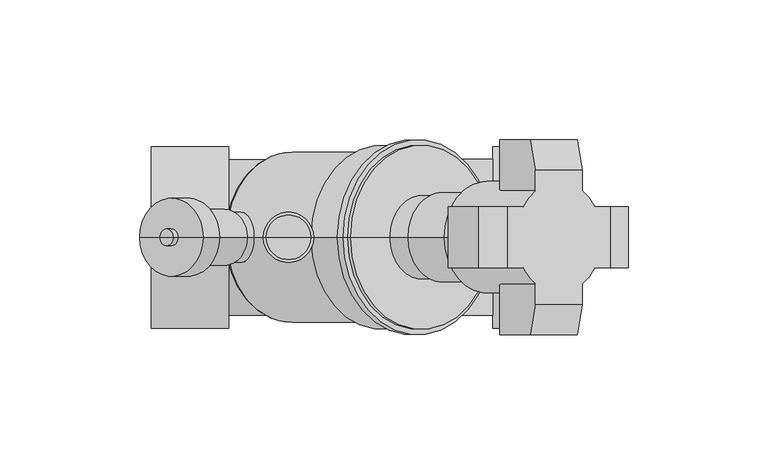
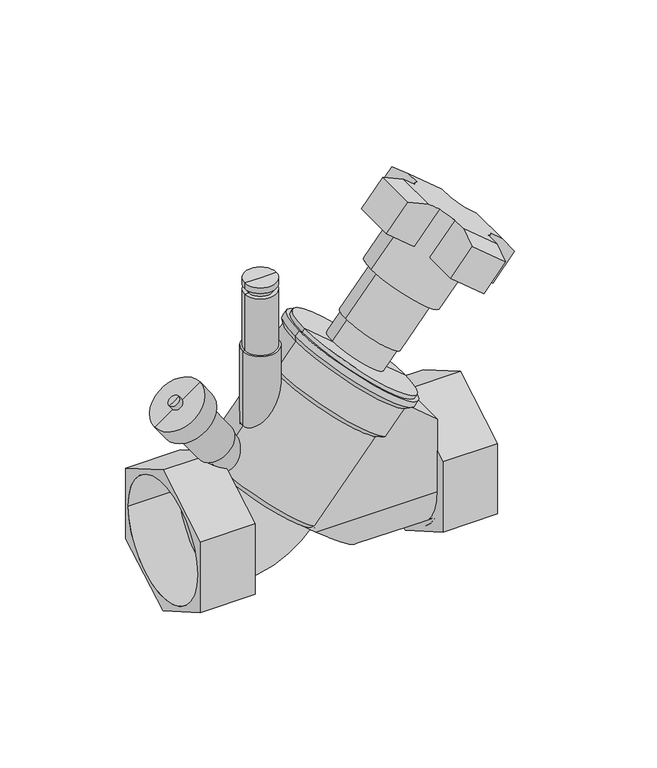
"""IFC4 building model written with IfcOpenShell, lengths in millimetres: valve geometry, 400_56_KOMF_VTR DN20-50 : DN 50, meet & vul/aftap."""

from ifc_helpers import new_model, si_unit, point, frame, origin, origin_2d, place, context, project, spatial, polyline, circle_curve, ellipse_curve, trimmed, segment, composite_curve, outline, extrude, source, transform, mapped, element, save
from ifc_brep_helpers import plane_surface, cylinder_surface, revolved_surface, advanced_brep


def valve_d54b975c(model_context):
    return source(origin(), model_context, "Body", "SolidModel", [
        advanced_brep(
        [(-47.3, -32.5, 18.7638837), (-47.3, -32.5, -18.7638837), (-47.3, 0.0, -37.5277675), (-47.3, 32.5, -18.7638837), (-47.3, 32.5, 18.7638837), (-47.3, 0.0, 37.5277675), (-75.0, -32.5, 18.7638837), (-75.0, 0.0, 37.5277675), (-75.0, 32.5, 18.7638837), (-75.0, 32.5, -18.7638837), (-75.0, 0.0, -37.5277675), (-75.0, -32.5, -18.7638837), (-75.0, -30.15, 0.0), (-75.0, 30.15, 0.0), (-49.3, -30.15, 0.0), (-49.3, 30.15, 0.0)],
        [
            (0, 1),
            (1, 2),
            (2, 3),
            (3, 4),
            (4, 5),
            (5, 0),
            (6, 7),
            (7, 8),
            (8, 9),
            (9, 10),
            (10, 11),
            (11, 6),
            (12, 13, circle_curve(frame((-75.0, 0.0, 0.0), z_axis=(1.0, 0.0, 0.0), x_axis=(0.0, 1.0, 0.0)), 30.15)),
            (13, 12, circle_curve(frame((-75.0, 0.0, 0.0), z_axis=(1.0, 0.0, 0.0), x_axis=(0.0, 1.0, 0.0)), 30.15)),
            (0, 6),
            (11, 1),
            (10, 2),
            (9, 3),
            (8, 4),
            (7, 5),
            (14, 15, circle_curve(frame((-49.3, 0.0, 0.0), z_axis=(-1.0, 0.0, 0.0), x_axis=(0.0, 1.0, 0.0)), 30.15)),
            (15, 14, circle_curve(frame((-49.3, 0.0, 0.0), z_axis=(-1.0, 0.0, 0.0), x_axis=(0.0, 1.0, 0.0)), 30.15)),
            (15, 13),
            (12, 14),
        ],
        [
            plane_surface(frame((-47.3, -32.5, 18.7638837), z_axis=(1.0, 0.0, 0.0), x_axis=(0.0, 0.0, -1.0))),
            plane_surface(frame((-75.0, -32.5, 18.7638837), z_axis=(-1.0, 0.0, 0.0), x_axis=(0.0, 0.0, 1.0))),
            plane_surface(frame((-47.3, -32.5, 18.7638837), z_axis=(0.0, -1.0, 0.0), x_axis=(-1.0, 0.0, 0.0))),
            plane_surface(frame((-47.3, -32.5, -18.7638837), z_axis=(0.0, -0.5000000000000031, -0.8660254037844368), x_axis=(-1.0, 0.0, 0.0))),
            plane_surface(frame((-47.3, 0.0, -37.5277675), z_axis=(0.0, 0.5000000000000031, -0.8660254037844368), x_axis=(-1.0, 0.0, 0.0))),
            plane_surface(frame((-47.3, 32.5, -18.7638837), z_axis=(0.0, 1.0, 0.0), x_axis=(-1.0, 0.0, 0.0))),
            plane_surface(frame((-47.3, 32.5, 18.7638837), z_axis=(0.0, 0.5000000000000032, 0.8660254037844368), x_axis=(-1.0, 0.0, 0.0))),
            plane_surface(frame((-47.3, 0.0, 37.5277675), z_axis=(0.0, -0.5000000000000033, 0.8660254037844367), x_axis=(-1.0, 0.0, 0.0))),
            plane_surface(frame((-49.3, 30.15, 0.0), z_axis=(-1.0, 0.0, 0.0), x_axis=(0.0, 0.0, 1.0))),
            revolved_surface(polyline([(-49.3, 30.15, 0.0), (-75.0, 30.15, 0.0)]), (-75.0, 0.0, 0.0), (1.0, 0.0, 0.0)),
        ],
        [
            (0, [[1, 2, 3, 4, 5, 6]]),
            (1, [[7, 8, 9, 10, 11, 12], [13, 14]]),
            (2, [[-1, 15, -12, 16]]),
            (3, [[-2, -16, -11, 17]]),
            (4, [[-3, -17, -10, 18]]),
            (5, [[-4, -18, -9, 19]]),
            (6, [[-5, -19, -8, 20]]),
            (7, [[-6, -20, -7, -15]]),
            (8, [[21, 22]]),
            (9, [[-22, 23, -13, 24]]),
            (9, [[-21, -24, -14, -23]]),
        ],
    ),
        advanced_brep(
        [(75.0, -32.5, 18.7638837), (75.0, -32.5, -18.7638837), (75.0, 0.0, -37.5277675), (75.0, 32.5, -18.7638837), (75.0, 32.5, 18.7638837), (75.0, 0.0, 37.5277675), (75.0, 30.15, 0.0), (75.0, -30.15, 0.0), (47.3, -32.5, 18.7638837), (47.3, 0.0, 37.5277675), (47.3, 32.5, 18.7638837), (47.3, 32.5, -18.7638837), (47.3, 0.0, -37.5277675), (47.3, -32.5, -18.7638837), (49.3, -30.15, 0.0), (49.3, 30.15, 0.0)],
        [
            (0, 1),
            (1, 2),
            (2, 3),
            (3, 4),
            (4, 5),
            (5, 0),
            (6, 7, circle_curve(frame((75.0, 0.0, 0.0), z_axis=(-1.0, 0.0, 0.0), x_axis=(0.0, 1.0, 0.0)), 30.15)),
            (7, 6, circle_curve(frame((75.0, 0.0, 0.0), z_axis=(-1.0, 0.0, 0.0), x_axis=(0.0, 1.0, 0.0)), 30.15)),
            (8, 9),
            (9, 10),
            (10, 11),
            (11, 12),
            (12, 13),
            (13, 8),
            (0, 8),
            (13, 1),
            (12, 2),
            (11, 3),
            (10, 4),
            (9, 5),
            (14, 15, circle_curve(frame((49.3, 0.0, 0.0), z_axis=(1.0, 0.0, 0.0), x_axis=(0.0, 1.0, 0.0)), 30.15)),
            (15, 14, circle_curve(frame((49.3, 0.0, 0.0), z_axis=(1.0, 0.0, 0.0), x_axis=(0.0, 1.0, 0.0)), 30.15)),
            (14, 7),
            (6, 15),
        ],
        [
            plane_surface(frame((75.0, -32.5, 18.7638837), z_axis=(1.0, 0.0, 0.0), x_axis=(0.0, 0.0, -1.0))),
            plane_surface(frame((47.3, -32.5, 18.7638837), z_axis=(-1.0, 0.0, 0.0), x_axis=(0.0, 0.0, 1.0))),
            plane_surface(frame((75.0, -32.5, 18.7638837), z_axis=(0.0, -1.0, 0.0), x_axis=(-1.0, 0.0, 0.0))),
            plane_surface(frame((75.0, -32.5, -18.7638837), z_axis=(0.0, -0.5000000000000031, -0.8660254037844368), x_axis=(-1.0, 0.0, 0.0))),
            plane_surface(frame((75.0, 0.0, -37.5277675), z_axis=(0.0, 0.5000000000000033, -0.8660254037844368), x_axis=(-1.0, 0.0, 0.0))),
            plane_surface(frame((75.0, 32.5, -18.7638837), z_axis=(0.0, 1.0, 0.0), x_axis=(-1.0, 0.0, 0.0))),
            plane_surface(frame((75.0, 32.5, 18.7638837), z_axis=(0.0, 0.5000000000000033, 0.8660254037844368), x_axis=(-1.0, 0.0, 0.0))),
            plane_surface(frame((75.0, 0.0, 37.5277675), z_axis=(0.0, -0.5000000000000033, 0.8660254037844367), x_axis=(-1.0, 0.0, 0.0))),
            plane_surface(frame((49.3, 30.15, 0.0), z_axis=(1.0, 0.0, 0.0), x_axis=(0.0, 0.0, -1.0))),
            revolved_surface(polyline([(75.0, 30.15, 0.0), (49.3, 30.15, 0.0)]), (49.3, 0.0, 0.0), (1.0, 0.0, 0.0)),
        ],
        [
            (0, [[1, 2, 3, 4, 5, 6], [7, 8]]),
            (1, [[9, 10, 11, 12, 13, 14]]),
            (2, [[-1, 15, -14, 16]]),
            (3, [[-2, -16, -13, 17]]),
            (4, [[-3, -17, -12, 18]]),
            (5, [[-4, -18, -11, 19]]),
            (6, [[-5, -19, -10, 20]]),
            (7, [[-6, -20, -9, -15]]),
            (8, [[21, 22]]),
            (9, [[-21, 23, -7, 24]]),
            (9, [[-22, -24, -8, -23]]),
        ],
    ),
        extrude(outline(polyline([(28.0, 49.3), (52.5786104, 35.4204683), (65.1571468, 20.4299523), (0.0, 11.3951534), (0.0, 49.3), (28.0, 49.3)])), frame((0.0, -2.0, 0.0), z_axis=(0.0, 1.0, 0.0), x_axis=(0.0, 0.0, 1.0)), (0.0, 0.0, 1.0), 4.0),
        extrude(outline(composite_curve([segment(trimmed(circle_curve(origin_2d(), 30.15), [point((0.0, -30.15))], [point((0.0, 30.15))], False, "CARTESIAN"), True, "CONTINUOUS"), segment(trimmed(circle_curve(origin_2d(), 30.15), [point((0.0, 30.15))], [point((0.0, -30.15))], False, "CARTESIAN"), True, "CONTINUOUS")], self_intersect=False)), frame((47.3, 0.0, 0.0), z_axis=(1.0, 0.0, 0.0), x_axis=(0.0, 1.0, 0.0)), (0.0, 0.0, 1.0), 2.0),
        advanced_brep(
        [(21.7155275, 0.0, 66.6892357), (46.9949941, 0.0, 45.4772446), (-3.5639391, 0.0, 87.9012268), (-47.6830222, 0.0, 28.3213938), (-4.018489, 0.0, -8.3174999), (-25.8507556, 0.0, 10.0019469), (-17.0757306, 0.0, 67.9091912), (29.6529804, 0.0, 28.699147), (-1.2008249, 0.0, -8.0709863), (-47.9295359, 0.0, 31.1390579), (-17.7052665, 0.0, 71.0482491), (32.8536667, 0.0, 28.6242669), (-8.0634524, 0.0, 82.5389157), (42.4954809, 0.0, 40.1149335), (-8.309966, 0.0, 85.3565798), (45.313145, 0.0, 40.3614472), (-6.3816032, 0.0, 87.6547132), (47.2415078, 0.0, 42.6595805), (-4.8495143, 0.0, 86.369138), (45.7094189, 0.0, 43.9451557)],
        [
            (0, 1),
            (1, 2, circle_curve(frame((21.7155275, 0.0, 66.6892357), z_axis=(0.6427876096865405, 0.0, 0.7660444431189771), x_axis=(0.7660444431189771, 0.0, -0.6427876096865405)), 33.0)),
            (2, 0),
            (2, 1, circle_curve(frame((21.7155275, 0.0, 66.6892357), z_axis=(0.6427876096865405, 0.0, 0.7660444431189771), x_axis=(0.7660444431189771, 0.0, -0.6427876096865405)), 33.0)),
            (3, 4, circle_curve(frame((-25.8507556, 0.0, 10.0019469), z_axis=(-0.6427876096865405, 0.0, -0.7660444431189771), x_axis=(0.7660444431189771, 0.0, -0.6427876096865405)), 28.5)),
            (4, 5),
            (5, 3),
            (4, 3, circle_curve(frame((-25.8507556, 0.0, 10.0019469), z_axis=(-0.6427876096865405, 0.0, -0.7660444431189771), x_axis=(0.7660444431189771, 0.0, -0.6427876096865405)), 28.5)),
            (6, 7, circle_curve(frame((6.2886249, 0.0, 48.3041691), z_axis=(-0.6427876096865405, 0.0, -0.7660444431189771), x_axis=(0.7660444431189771, 0.0, -0.6427876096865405)), 30.5)),
            (7, 8),
            (8, 9, circle_curve(frame((-24.5651804, 0.0, 11.5340358), z_axis=(0.6427876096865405, 0.0, 0.7660444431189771), x_axis=(0.7660444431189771, 0.0, -0.6427876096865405)), 30.5)),
            (9, 6),
            (7, 6, circle_curve(frame((6.2886249, 0.0, 48.3041691), z_axis=(-0.6427876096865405, 0.0, -0.7660444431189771), x_axis=(0.7660444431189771, 0.0, -0.6427876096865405)), 30.5)),
            (9, 8, circle_curve(frame((-24.5651804, 0.0, 11.5340358), z_axis=(0.6427876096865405, 0.0, 0.7660444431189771), x_axis=(0.7660444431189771, 0.0, -0.6427876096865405)), 30.5)),
            (10, 11, circle_curve(frame((7.5742001, 0.0, 49.836258), z_axis=(-0.6427876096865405, 0.0, -0.7660444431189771), x_axis=(0.7660444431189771, 0.0, -0.6427876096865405)), 33.0)),
            (11, 7),
            (6, 10),
            (11, 10, circle_curve(frame((7.5742001, 0.0, 49.836258), z_axis=(-0.6427876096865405, 0.0, -0.7660444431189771), x_axis=(0.7660444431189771, 0.0, -0.6427876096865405)), 33.0)),
            (12, 13, circle_curve(frame((17.2160143, 0.0, 61.3269246), z_axis=(-0.6427876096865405, 0.0, -0.7660444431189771), x_axis=(0.7660444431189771, 0.0, -0.6427876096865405)), 33.0)),
            (13, 11),
            (10, 12),
            (13, 12, circle_curve(frame((17.2160143, 0.0, 61.3269246), z_axis=(-0.6427876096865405, 0.0, -0.7660444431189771), x_axis=(0.7660444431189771, 0.0, -0.6427876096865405)), 33.0)),
            (14, 15, circle_curve(frame((18.5015895, 0.0, 62.8590135), z_axis=(-0.6427876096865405, 0.0, -0.7660444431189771), x_axis=(0.7660444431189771, 0.0, -0.6427876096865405)), 35.0)),
            (15, 13),
            (12, 14),
            (15, 14, circle_curve(frame((18.5015895, 0.0, 62.8590135), z_axis=(-0.6427876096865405, 0.0, -0.7660444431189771), x_axis=(0.7660444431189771, 0.0, -0.6427876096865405)), 35.0)),
            (16, 17, circle_curve(frame((20.4299523, 0.0, 65.1571468), z_axis=(-0.6427876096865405, 0.0, -0.7660444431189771), x_axis=(0.7660444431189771, 0.0, -0.6427876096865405)), 35.0)),
            (17, 15),
            (14, 16),
            (17, 16, circle_curve(frame((20.4299523, 0.0, 65.1571468), z_axis=(-0.6427876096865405, 0.0, -0.7660444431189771), x_axis=(0.7660444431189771, 0.0, -0.6427876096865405)), 35.0)),
            (18, 19, circle_curve(frame((20.4299523, 0.0, 65.1571468), z_axis=(-0.6427876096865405, 0.0, -0.7660444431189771), x_axis=(0.7660444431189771, 0.0, -0.6427876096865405)), 33.0)),
            (19, 17),
            (16, 18),
            (19, 18, circle_curve(frame((20.4299523, 0.0, 65.1571468), z_axis=(-0.6427876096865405, 0.0, -0.7660444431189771), x_axis=(0.7660444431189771, 0.0, -0.6427876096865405)), 33.0)),
            (1, 19),
            (18, 2),
            (8, 4, circle_curve(frame((-2.7329137, 0.0, -6.7854111), z_axis=(0.0, 1.0, 0.0), x_axis=(0.6427876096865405, 0.0, 0.7660444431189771)), 2.0)),
            (3, 9, circle_curve(frame((-46.397447, 0.0, 29.8534827), z_axis=(0.0, 1.0, 0.0), x_axis=(0.6427876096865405, 0.0, 0.7660444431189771)), 2.0)),
        ],
        [
            plane_surface(frame((21.7155275, 0.0, 66.6892357), z_axis=(0.6427876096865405, 0.0, 0.7660444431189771), x_axis=(0.7660444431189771, 0.0, -0.6427876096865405))),
            plane_surface(frame((-25.8507556, 0.0, 10.0019469), z_axis=(-0.6427876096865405, 0.0, -0.7660444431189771), x_axis=(0.7660444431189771, 0.0, -0.6427876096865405))),
            cylinder_surface(frame((-34.2433856, 0.0, 0.0), z_axis=(0.6427876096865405, 0.0, 0.7660444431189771), x_axis=(0.7660444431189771, 0.0, -0.6427876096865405)), 30.5),
            revolved_surface(polyline([(29.6529804, 0.0, 28.699147), (32.8536667, 0.0, 28.6242669)]), (-34.2433856, 0.0, 0.0), (0.6427876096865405, 0.0, 0.7660444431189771)),
            cylinder_surface(frame((-34.2433856, 0.0, 0.0), z_axis=(0.6427876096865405, 0.0, 0.7660444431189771), x_axis=(0.7660444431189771, 0.0, -0.6427876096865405)), 33.0),
            revolved_surface(polyline([(42.4954809, 0.0, 40.1149335), (45.313145, 0.0, 40.3614472)]), (-34.2433856, 0.0, 0.0), (0.6427876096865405, 0.0, 0.7660444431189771)),
            cylinder_surface(frame((-34.2433856, 0.0, 0.0), z_axis=(0.6427876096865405, 0.0, 0.7660444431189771), x_axis=(0.7660444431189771, 0.0, -0.6427876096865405)), 35.0),
            plane_surface(frame((20.4299523, 0.0, 65.1571468), z_axis=(0.6427876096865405, 0.0, 0.7660444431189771), x_axis=(0.7660444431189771, 0.0, -0.6427876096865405))),
            revolved_surface(trimmed(ellipse_curve(frame((-2.7329137, 0.0, -6.7854111), z_axis=(0.0, -1.0, 0.0), x_axis=(0.6427876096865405, 0.0, 0.7660444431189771)), 2.0, 2.0), [point((-4.018489, 0.0, -8.3174999))], [point((-1.2008249, 0.0, -8.0709863))], True, "CARTESIAN"), (-34.2433856, 0.0, 0.0), (0.6427876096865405, 0.0, 0.7660444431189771)),
        ],
        [
            (0, [[1, 2, 3]]),
            (0, [[-3, 4, -1]]),
            (1, [[5, 6, 7]]),
            (1, [[8, -7, -6]]),
            (2, [[9, 10, 11, 12]]),
            (2, [[13, -12, 14, -10]]),
            (3, [[15, 16, -9, 17]]),
            (3, [[18, -17, -13, -16]]),
            (4, [[19, 20, -15, 21]]),
            (4, [[22, -21, -18, -20]]),
            (5, [[23, 24, -19, 25]]),
            (5, [[26, -25, -22, -24]]),
            (6, [[27, 28, -23, 29]]),
            (6, [[30, -29, -26, -28]]),
            (7, [[31, 32, -27, 33]]),
            (7, [[34, -33, -30, -32]]),
            (4, [[-2, 35, -31, 36]]),
            (4, [[-4, -36, -34, -35]]),
            (8, [[-11, 37, -5, 38]]),
            (8, [[-14, -38, -8, -37]]),
        ],
    ),
        advanced_brep(
        [(-34.8507556, 0.0, 86.7912718), (-16.8507556, 0.0, 86.7912718), (-16.8507556, 0.0, 10.0019469), (-34.8507556, 0.0, 10.0019469), (-33.8507556, 0.0, 86.7912718), (-17.8507556, 0.0, 86.7912718), (-33.8507556, 0.0, 116.7912718), (-17.8507556, 0.0, 116.7912718), (-31.8507556, 0.0, 116.7912718), (-19.8507556, 0.0, 116.7912718), (-25.8507556, 0.0, 10.0019469), (-31.8507556, 0.0, 119.7912718), (-19.8507556, 0.0, 119.7912718), (-33.8507556, 0.0, 119.7912718), (-17.8507556, 0.0, 119.7912718), (-33.8507556, 0.0, 122.7912718), (-17.8507556, 0.0, 122.7912718), (-25.8507556, 0.0, 122.7912718)],
        [
            (0, 1, circle_curve(frame((-25.8507556, 0.0, 86.7912718), z_axis=(0.0, 0.0, -1.0), x_axis=(1.0, 0.0, 0.0)), 9.0)),
            (1, 2),
            (2, 3, circle_curve(frame((-25.8507556, 0.0, 10.0019469), z_axis=(0.0, 0.0, 1.0), x_axis=(1.0, 0.0, 0.0)), 9.0)),
            (3, 0),
            (1, 0, circle_curve(frame((-25.8507556, 0.0, 86.7912718), z_axis=(0.0, 0.0, -1.0), x_axis=(1.0, 0.0, 0.0)), 9.0)),
            (3, 2, circle_curve(frame((-25.8507556, 0.0, 10.0019469), z_axis=(0.0, 0.0, 1.0), x_axis=(1.0, 0.0, 0.0)), 9.0)),
            (4, 5, circle_curve(frame((-25.8507556, 0.0, 86.7912718), z_axis=(0.0, 0.0, -1.0), x_axis=(1.0, 0.0, 0.0)), 8.0)),
            (5, 1),
            (0, 4),
            (5, 4, circle_curve(frame((-25.8507556, 0.0, 86.7912718), z_axis=(0.0, 0.0, -1.0), x_axis=(1.0, 0.0, 0.0)), 8.0)),
            (6, 7, circle_curve(frame((-25.8507556, 0.0, 116.7912718), z_axis=(0.0, 0.0, -1.0), x_axis=(1.0, 0.0, 0.0)), 8.0)),
            (7, 5),
            (4, 6),
            (7, 6, circle_curve(frame((-25.8507556, 0.0, 116.7912718), z_axis=(0.0, 0.0, -1.0), x_axis=(1.0, 0.0, 0.0)), 8.0)),
            (8, 9, circle_curve(frame((-25.8507556, 0.0, 116.7912718), z_axis=(0.0, 0.0, -1.0), x_axis=(1.0, 0.0, 0.0)), 6.0)),
            (9, 7),
            (6, 8),
            (9, 8, circle_curve(frame((-25.8507556, 0.0, 116.7912718), z_axis=(0.0, 0.0, -1.0), x_axis=(1.0, 0.0, 0.0)), 6.0)),
            (2, 10),
            (10, 3),
            (11, 12, circle_curve(frame((-25.8507556, 0.0, 119.7912718), z_axis=(0.0, 0.0, -1.0), x_axis=(1.0, 0.0, 0.0)), 6.0)),
            (12, 9),
            (8, 11),
            (12, 11, circle_curve(frame((-25.8507556, 0.0, 119.7912718), z_axis=(0.0, 0.0, -1.0), x_axis=(1.0, 0.0, 0.0)), 6.0)),
            (13, 14, circle_curve(frame((-25.8507556, 0.0, 119.7912718), z_axis=(0.0, 0.0, -1.0), x_axis=(1.0, 0.0, 0.0)), 8.0)),
            (14, 12),
            (11, 13),
            (14, 13, circle_curve(frame((-25.8507556, 0.0, 119.7912718), z_axis=(0.0, 0.0, -1.0), x_axis=(1.0, 0.0, 0.0)), 8.0)),
            (15, 16, circle_curve(frame((-25.8507556, 0.0, 122.7912718), z_axis=(0.0, 0.0, -1.0), x_axis=(1.0, 0.0, 0.0)), 8.0)),
            (16, 14),
            (13, 15),
            (16, 15, circle_curve(frame((-25.8507556, 0.0, 122.7912718), z_axis=(0.0, 0.0, -1.0), x_axis=(1.0, 0.0, 0.0)), 8.0)),
            (17, 16),
            (15, 17),
        ],
        [
            cylinder_surface(frame((-25.8507556, 0.0, 10.0019469), z_axis=(0.0, 0.0, 1.0), x_axis=(1.0, 0.0, 0.0)), 9.0),
            plane_surface(frame((-25.8507556, 0.0, 86.7912718), z_axis=(0.0, 0.0, 1.0), x_axis=(1.0, 0.0, 0.0))),
            cylinder_surface(frame((-25.8507556, 0.0, 10.0019469), z_axis=(0.0, 0.0, 1.0), x_axis=(1.0, 0.0, 0.0)), 8.0),
            plane_surface(frame((-25.8507556, 0.0, 116.7912718), z_axis=(0.0, 0.0, 1.0), x_axis=(1.0, 0.0, 0.0))),
            plane_surface(frame((-25.8507556, 0.0, 10.0019469), z_axis=(0.0, 0.0, -1.0), x_axis=(1.0, 0.0, 0.0))),
            cylinder_surface(frame((-25.8507556, 0.0, 10.0019469), z_axis=(0.0, 0.0, 1.0), x_axis=(1.0, 0.0, 0.0)), 6.0),
            plane_surface(frame((-25.8507556, 0.0, 119.7912718), z_axis=(0.0, 0.0, -1.0), x_axis=(1.0, 0.0, 0.0))),
            plane_surface(frame((-25.8507556, 0.0, 122.7912718), z_axis=(0.0, 0.0, 1.0), x_axis=(1.0, 0.0, 0.0))),
        ],
        [
            (0, [[1, 2, 3, 4]]),
            (0, [[5, -4, 6, -2]]),
            (1, [[7, 8, -1, 9]]),
            (1, [[10, -9, -5, -8]]),
            (2, [[11, 12, -7, 13]]),
            (2, [[14, -13, -10, -12]]),
            (3, [[15, 16, -11, 17]]),
            (3, [[18, -17, -14, -16]]),
            (4, [[-3, 19, 20]]),
            (4, [[-6, -20, -19]]),
            (5, [[21, 22, -15, 23]]),
            (5, [[24, -23, -18, -22]]),
            (6, [[25, 26, -21, 27]]),
            (6, [[28, -27, -24, -26]]),
            (2, [[29, 30, -25, 31]]),
            (2, [[32, -31, -28, -30]]),
            (7, [[33, -29, 34]]),
            (7, [[-34, -32, -33]]),
        ],
    ),
        advanced_brep(
        [(-69.8495907, 0.0, 53.6608808), (-51.8282457, 0.0, 66.2795624), (-52.6473978, 0.0, 65.705986), (-69.0304387, 0.0, 54.2344573), (-33.223124, 0.0, 4.839759), (-18.4783872, 0.0, 15.1641349), (-25.8507556, 0.0, 10.0019469), (-56.1661814, 0.0, 37.6058408), (-41.4214446, 0.0, 47.9302166), (-56.9853335, 0.0, 37.0322643), (-40.6022926, 0.0, 48.5037931), (-70.9967436, 0.0, 55.2991849), (-52.9753986, 0.0, 67.9178665), (-73.4541997, 0.0, 53.5784556), (-50.5179425, 0.0, 69.6385958), (-79.1899641, 0.0, 61.7699761), (-56.2537068, 0.0, 77.8301163), (-70.1792916, 0.0, 68.0793169), (-65.2643793, 0.0, 71.5207755), (-71.9000209, 0.0, 70.536773), (-66.9851086, 0.0, 73.9782316), (-69.4425648, 0.0, 72.2575023)],
        [
            (0, 1, circle_curve(frame((-60.8389182, 0.0, 59.9702216), z_axis=(0.573576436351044, 0.0, -0.8191520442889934), x_axis=(0.8191520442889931, 0.0, 0.5735764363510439)), 11.0)),
            (1, 2),
            (2, 3, circle_curve(frame((-60.8389182, 0.0, 59.9702216), z_axis=(-0.573576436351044, 0.0, 0.8191520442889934), x_axis=(0.8191520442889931, 0.0, 0.5735764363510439)), 10.0)),
            (3, 0),
            (1, 0, circle_curve(frame((-60.8389182, 0.0, 59.9702216), z_axis=(0.573576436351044, 0.0, -0.8191520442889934), x_axis=(0.8191520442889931, 0.0, 0.5735764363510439)), 11.0)),
            (3, 2, circle_curve(frame((-60.8389182, 0.0, 59.9702216), z_axis=(-0.573576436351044, 0.0, 0.8191520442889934), x_axis=(0.8191520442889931, 0.0, 0.5735764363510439)), 10.0)),
            (4, 5, circle_curve(frame((-25.8507556, 0.0, 10.0019469), z_axis=(0.573576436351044, 0.0, -0.8191520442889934), x_axis=(0.8191520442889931, 0.0, 0.5735764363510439)), 9.0)),
            (5, 6),
            (6, 4),
            (5, 4, circle_curve(frame((-25.8507556, 0.0, 10.0019469), z_axis=(0.573576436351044, 0.0, -0.8191520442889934), x_axis=(0.8191520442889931, 0.0, 0.5735764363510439)), 9.0)),
            (7, 8, circle_curve(frame((-48.793813, 0.0, 42.7680287), z_axis=(0.573576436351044, 0.0, -0.8191520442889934), x_axis=(0.8191520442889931, 0.0, 0.5735764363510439)), 9.0)),
            (8, 5),
            (4, 7),
            (8, 7, circle_curve(frame((-48.793813, 0.0, 42.7680287), z_axis=(0.573576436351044, 0.0, -0.8191520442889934), x_axis=(0.8191520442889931, 0.0, 0.5735764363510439)), 9.0)),
            (9, 10, circle_curve(frame((-48.793813, 0.0, 42.7680287), z_axis=(0.573576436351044, 0.0, -0.8191520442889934), x_axis=(0.8191520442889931, 0.0, 0.5735764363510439)), 10.0)),
            (10, 8),
            (7, 9),
            (10, 9, circle_curve(frame((-48.793813, 0.0, 42.7680287), z_axis=(0.573576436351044, 0.0, -0.8191520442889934), x_axis=(0.8191520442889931, 0.0, 0.5735764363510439)), 10.0)),
            (2, 10),
            (9, 3),
            (11, 12, circle_curve(frame((-61.9860711, 0.0, 61.6085257), z_axis=(0.573576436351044, 0.0, -0.8191520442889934), x_axis=(0.8191520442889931, 0.0, 0.5735764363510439)), 11.0)),
            (12, 1),
            (0, 11),
            (12, 11, circle_curve(frame((-61.9860711, 0.0, 61.6085257), z_axis=(0.573576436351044, 0.0, -0.8191520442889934), x_axis=(0.8191520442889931, 0.0, 0.5735764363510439)), 11.0)),
            (13, 14, circle_curve(frame((-61.9860711, 0.0, 61.6085257), z_axis=(0.573576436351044, 0.0, -0.8191520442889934), x_axis=(0.8191520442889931, 0.0, 0.5735764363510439)), 14.0)),
            (14, 12),
            (11, 13),
            (14, 13, circle_curve(frame((-61.9860711, 0.0, 61.6085257), z_axis=(0.573576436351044, 0.0, -0.8191520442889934), x_axis=(0.8191520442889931, 0.0, 0.5735764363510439)), 14.0)),
            (15, 16, circle_curve(frame((-67.7218354, 0.0, 69.8000462), z_axis=(0.573576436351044, 0.0, -0.8191520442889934), x_axis=(0.8191520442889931, 0.0, 0.5735764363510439)), 14.0)),
            (16, 14),
            (13, 15),
            (16, 15, circle_curve(frame((-67.7218354, 0.0, 69.8000462), z_axis=(0.573576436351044, 0.0, -0.8191520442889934), x_axis=(0.8191520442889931, 0.0, 0.5735764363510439)), 14.0)),
            (17, 18, circle_curve(frame((-67.7218354, 0.0, 69.8000462), z_axis=(0.573576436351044, 0.0, -0.8191520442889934), x_axis=(0.8191520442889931, 0.0, 0.5735764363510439)), 3.0)),
            (18, 16),
            (15, 17),
            (18, 17, circle_curve(frame((-67.7218354, 0.0, 69.8000462), z_axis=(0.573576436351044, 0.0, -0.8191520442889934), x_axis=(0.8191520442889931, 0.0, 0.5735764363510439)), 3.0)),
            (19, 20, circle_curve(frame((-69.4425648, 0.0, 72.2575023), z_axis=(0.573576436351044, 0.0, -0.8191520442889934), x_axis=(0.8191520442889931, 0.0, 0.5735764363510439)), 3.0)),
            (20, 18),
            (17, 19),
            (20, 19, circle_curve(frame((-69.4425648, 0.0, 72.2575023), z_axis=(0.573576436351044, 0.0, -0.8191520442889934), x_axis=(0.8191520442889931, 0.0, 0.5735764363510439)), 3.0)),
            (21, 20),
            (19, 21),
        ],
        [
            plane_surface(frame((-60.8389182, 0.0, 59.9702216), z_axis=(0.573576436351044, 0.0, -0.8191520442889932), x_axis=(0.8191520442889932, 0.0, 0.573576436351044))),
            plane_surface(frame((-25.8507556, 0.0, 10.0019469), z_axis=(0.573576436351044, 0.0, -0.8191520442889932), x_axis=(0.8191520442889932, 0.0, 0.573576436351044))),
            cylinder_surface(frame((-25.8507556, 0.0, 10.0019469), z_axis=(-0.5735764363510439, 0.0, 0.8191520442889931), x_axis=(0.8191520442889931, 0.0, 0.5735764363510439)), 9.0),
            plane_surface(frame((-48.793813, 0.0, 42.7680287), z_axis=(0.573576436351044, 0.0, -0.8191520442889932), x_axis=(0.8191520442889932, 0.0, 0.573576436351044))),
            cylinder_surface(frame((-25.8507556, 0.0, 10.0019469), z_axis=(-0.5735764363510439, 0.0, 0.8191520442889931), x_axis=(0.8191520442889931, 0.0, 0.5735764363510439)), 10.0),
            cylinder_surface(frame((-25.8507556, 0.0, 10.0019469), z_axis=(-0.5735764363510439, 0.0, 0.8191520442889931), x_axis=(0.8191520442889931, 0.0, 0.5735764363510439)), 11.0),
            plane_surface(frame((-61.9860711, 0.0, 61.6085257), z_axis=(0.573576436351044, 0.0, -0.8191520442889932), x_axis=(0.8191520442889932, 0.0, 0.573576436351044))),
            cylinder_surface(frame((-25.8507556, 0.0, 10.0019469), z_axis=(-0.5735764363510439, 0.0, 0.8191520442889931), x_axis=(0.8191520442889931, 0.0, 0.5735764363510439)), 14.0),
            plane_surface(frame((-67.7218354, 0.0, 69.8000462), z_axis=(-0.573576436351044, 0.0, 0.8191520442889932), x_axis=(0.8191520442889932, 0.0, 0.573576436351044))),
            cylinder_surface(frame((-25.8507556, 0.0, 10.0019469), z_axis=(-0.5735764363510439, 0.0, 0.8191520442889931), x_axis=(0.8191520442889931, 0.0, 0.5735764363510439)), 3.0),
            plane_surface(frame((-69.4425648, 0.0, 72.2575023), z_axis=(-0.573576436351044, 0.0, 0.8191520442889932), x_axis=(0.8191520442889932, 0.0, 0.573576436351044))),
        ],
        [
            (0, [[1, 2, 3, 4]]),
            (0, [[5, -4, 6, -2]]),
            (1, [[7, 8, 9]]),
            (1, [[10, -9, -8]]),
            (2, [[11, 12, -7, 13]]),
            (2, [[14, -13, -10, -12]]),
            (3, [[15, 16, -11, 17]]),
            (3, [[18, -17, -14, -16]]),
            (4, [[-3, 19, -15, 20]]),
            (4, [[-6, -20, -18, -19]]),
            (5, [[21, 22, -1, 23]]),
            (5, [[24, -23, -5, -22]]),
            (6, [[25, 26, -21, 27]]),
            (6, [[28, -27, -24, -26]]),
            (7, [[29, 30, -25, 31]]),
            (7, [[32, -31, -28, -30]]),
            (8, [[33, 34, -29, 35]]),
            (8, [[36, -35, -32, -34]]),
            (9, [[37, 38, -33, 39]]),
            (9, [[40, -39, -36, -38]]),
            (10, [[41, -37, 42]]),
            (10, [[-42, -40, -41]]),
        ],
    ),
        advanced_brep(
        [(17.7937989, 0.0, 85.351359), (40.7751322, 0.0, 66.0677307), (33.2061942, 0.0, 57.0474216), (10.2248609, 0.0, 76.3310499), (17.0277545, 0.0, 85.9941466), (41.5411767, 0.0, 65.4249431), (33.0974447, 0.0, 105.1452577), (57.6108669, 0.0, 84.5760542), (30.033267, 0.0, 107.7164081), (60.6750447, 0.0, 82.0049037), (42.8890192, 0.0, 123.037297), (45.4144432, 11.0, 120.9182146), (58.2701954, 11.0, 136.2391035), (62.6391714, 16.7032931, 132.5730974), (49.7834192, 16.7032931, 117.2522085), (66.6363969, 16.7032931, 103.1108811), (79.4921491, 16.7032931, 118.43177), (83.8611251, 11.0, 114.7657638), (71.0053729, 11.0, 99.444875), (73.5307969, 0.0, 97.3257926), (71.0053729, -11.0, 99.444875), (83.8611251, -11.0, 114.7657638), (79.4921491, -16.7032931, 118.43177), (66.6363969, -16.7032931, 103.1108811), (49.7834192, -16.7032931, 117.2522085), (62.6391714, -16.7032931, 132.5730974), (58.2701954, -11.0, 136.2391035), (45.4144432, -11.0, 120.9182146), (89.4507269, -11.0, 110.075531), (89.4507269, 11.0, 110.075531), (79.4921491, 24.0, 118.43177), (62.6391714, 24.0, 132.5730974), (52.6805936, 11.0, 140.9293363), (52.6805936, -11.0, 140.9293363), (62.6391714, -24.0, 132.5730974), (79.4921491, -24.0, 118.43177), (21.7155275, 0.0, 66.6892357), (42.3257419, -11.0, 145.7018667), (31.3983525, -11.0, 132.6791111), (85.0214635, -11.0, 87.6839785), (95.9488529, -11.0, 100.706734), (95.9488529, 11.0, 100.706734), (85.0214635, 11.0, 87.6839785), (31.3983525, 11.0, 132.6791111), (42.3257419, 11.0, 145.7018667), (66.6363969, 35.0, 103.1108811), (77.5637863, 35.0, 116.1336366), (77.5637863, -35.0, 116.1336366), (66.6363969, -35.0, 103.1108811), (49.7834192, -35.0, 117.2522085), (60.7108085, -35.0, 130.274964), (60.7108085, 35.0, 130.274964), (49.7834192, 35.0, 117.2522085)],
        [
            (0, 1, circle_curve(frame((29.2844656, 0.0, 75.7095449), z_axis=(-0.6427876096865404, 0.0, -0.7660444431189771), x_axis=(0.7660444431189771, 0.0, -0.6427876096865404)), 15.0)),
            (1, 2),
            (2, 3, circle_curve(frame((21.7155275, 0.0, 66.6892357), z_axis=(0.6427876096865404, 0.0, 0.7660444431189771), x_axis=(0.7660444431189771, 0.0, -0.6427876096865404)), 15.0)),
            (3, 0),
            (1, 0, circle_curve(frame((29.2844656, 0.0, 75.7095449), z_axis=(-0.6427876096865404, 0.0, -0.7660444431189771), x_axis=(0.7660444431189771, 0.0, -0.6427876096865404)), 15.0)),
            (3, 2, circle_curve(frame((21.7155275, 0.0, 66.6892357), z_axis=(0.6427876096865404, 0.0, 0.7660444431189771), x_axis=(0.7660444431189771, 0.0, -0.6427876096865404)), 15.0)),
            (0, 4),
            (4, 5, circle_curve(frame((29.2844656, 0.0, 75.7095449), z_axis=(-0.6427876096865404, 0.0, -0.7660444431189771), x_axis=(0.7660444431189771, 0.0, -0.6427876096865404)), 16.0)),
            (5, 1),
            (5, 4, circle_curve(frame((29.2844656, 0.0, 75.7095449), z_axis=(-0.6427876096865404, 0.0, -0.7660444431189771), x_axis=(0.7660444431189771, 0.0, -0.6427876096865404)), 16.0)),
            (4, 6),
            (6, 7, circle_curve(frame((45.3541558, 0.0, 94.8606559), z_axis=(-0.6427876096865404, 0.0, -0.7660444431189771), x_axis=(0.7660444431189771, 0.0, -0.6427876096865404)), 16.0)),
            (7, 5),
            (7, 6, circle_curve(frame((45.3541558, 0.0, 94.8606559), z_axis=(-0.6427876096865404, 0.0, -0.7660444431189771), x_axis=(0.7660444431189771, 0.0, -0.6427876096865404)), 16.0)),
            (6, 8),
            (8, 9, circle_curve(frame((45.3541558, 0.0, 94.8606559), z_axis=(-0.6427876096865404, 0.0, -0.7660444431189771), x_axis=(0.7660444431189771, 0.0, -0.6427876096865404)), 20.0)),
            (9, 7),
            (9, 8, circle_curve(frame((45.3541558, 0.0, 94.8606559), z_axis=(-0.6427876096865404, 0.0, -0.7660444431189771), x_axis=(0.7660444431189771, 0.0, -0.6427876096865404)), 20.0)),
            (8, 10),
            (10, 11, circle_curve(frame((58.209908, 0.0, 110.1815448), z_axis=(-0.6427876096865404, 0.0, -0.7660444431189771), x_axis=(0.7660444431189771, 0.0, -0.6427876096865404)), 20.0)),
            (11, 12),
            (12, 13, circle_curve(frame((71.0656602, 0.0, 125.5024337), z_axis=(-0.6427876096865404, 0.0, -0.7660444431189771), x_axis=(0.7660444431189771, 0.0, -0.6427876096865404)), 20.0)),
            (13, 14),
            (14, 15, circle_curve(frame((58.209908, 0.0, 110.1815448), z_axis=(-0.6427876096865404, 0.0, -0.7660444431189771), x_axis=(0.7660444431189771, 0.0, -0.6427876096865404)), 20.0)),
            (15, 16),
            (16, 17, circle_curve(frame((71.0656602, 0.0, 125.5024337), z_axis=(-0.6427876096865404, 0.0, -0.7660444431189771), x_axis=(0.7660444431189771, 0.0, -0.6427876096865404)), 20.0)),
            (17, 18),
            (18, 19, circle_curve(frame((58.209908, 0.0, 110.1815448), z_axis=(-0.6427876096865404, 0.0, -0.7660444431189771), x_axis=(0.7660444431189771, 0.0, -0.6427876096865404)), 20.0)),
            (19, 9),
            (19, 20, circle_curve(frame((58.209908, 0.0, 110.1815448), z_axis=(-0.6427876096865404, 0.0, -0.7660444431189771), x_axis=(0.7660444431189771, 0.0, -0.6427876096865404)), 20.0)),
            (20, 21),
            (21, 22, circle_curve(frame((71.0656602, 0.0, 125.5024337), z_axis=(-0.6427876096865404, 0.0, -0.7660444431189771), x_axis=(0.7660444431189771, 0.0, -0.6427876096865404)), 20.0)),
            (22, 23),
            (23, 24, circle_curve(frame((58.209908, 0.0, 110.1815448), z_axis=(-0.6427876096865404, 0.0, -0.7660444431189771), x_axis=(0.7660444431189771, 0.0, -0.6427876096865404)), 20.0)),
            (24, 25),
            (25, 26, circle_curve(frame((71.0656602, 0.0, 125.5024337), z_axis=(-0.6427876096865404, 0.0, -0.7660444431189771), x_axis=(0.7660444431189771, 0.0, -0.6427876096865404)), 20.0)),
            (26, 27),
            (27, 10, circle_curve(frame((58.209908, 0.0, 110.1815448), z_axis=(-0.6427876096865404, 0.0, -0.7660444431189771), x_axis=(0.7660444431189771, 0.0, -0.6427876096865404)), 20.0)),
            (28, 29),
            (29, 17),
            (16, 30),
            (30, 31),
            (31, 13),
            (12, 32),
            (32, 33),
            (33, 26),
            (25, 34),
            (34, 35),
            (35, 22),
            (21, 28),
            (2, 36),
            (36, 3),
            (33, 37),
            (37, 38),
            (38, 27),
            (39, 40),
            (40, 28),
            (20, 39),
            (29, 41),
            (41, 42),
            (42, 18),
            (43, 44),
            (44, 32),
            (11, 43),
            (44, 37),
            (43, 38),
            (42, 39),
            (41, 40),
            (45, 46),
            (46, 30),
            (15, 45),
            (35, 47),
            (47, 48),
            (48, 23),
            (49, 50),
            (50, 34),
            (24, 49),
            (31, 51),
            (51, 52),
            (52, 14),
            (45, 52),
            (51, 46),
            (50, 47),
            (49, 48),
        ],
        [
            cylinder_surface(frame((-34.2433856, 0.0, 0.0), z_axis=(0.6427876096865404, 0.0, 0.7660444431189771), x_axis=(0.7660444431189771, 0.0, -0.6427876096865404)), 15.0),
            plane_surface(frame((29.2844656, 0.0, 75.7095449), z_axis=(-0.6427876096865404, 0.0, -0.7660444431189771), x_axis=(0.7660444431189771, 0.0, -0.6427876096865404))),
            cylinder_surface(frame((-34.2433856, 0.0, 0.0), z_axis=(0.6427876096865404, 0.0, 0.7660444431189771), x_axis=(0.7660444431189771, 0.0, -0.6427876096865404)), 16.0),
            plane_surface(frame((45.3541558, 0.0, 94.8606559), z_axis=(-0.6427876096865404, 0.0, -0.7660444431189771), x_axis=(0.7660444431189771, 0.0, -0.6427876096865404))),
            cylinder_surface(frame((-34.2433856, 0.0, 0.0), z_axis=(0.6427876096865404, 0.0, 0.7660444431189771), x_axis=(0.7660444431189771, 0.0, -0.6427876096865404)), 20.0),
            plane_surface(frame((71.0656602, 0.0, 125.5024337), z_axis=(0.6427876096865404, 0.0, 0.7660444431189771), x_axis=(0.7660444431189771, 0.0, -0.6427876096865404))),
            plane_surface(frame((21.7155275, 0.0, 66.6892357), z_axis=(-0.6427876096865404, 0.0, -0.7660444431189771), x_axis=(0.7660444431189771, 0.0, -0.6427876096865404))),
            plane_surface(frame((52.6805936, -11.0, 140.9293363), z_axis=(0.0, -1.0, 0.0), x_axis=(-0.7660444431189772, 0.0, 0.6427876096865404))),
            plane_surface(frame((52.6805936, 11.0, 140.9293363), z_axis=(0.0, 1.0, 0.0), x_axis=(0.7660444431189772, 0.0, -0.6427876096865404))),
            plane_surface(frame((52.6805936, -11.0, 140.9293363), z_axis=(0.4185786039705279, 0.0, 0.9081805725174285), x_axis=(0.0, 1.0, 0.0))),
            plane_surface(frame((42.3257419, -11.0, 145.7018667), z_axis=(-0.7660444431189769, 0.0, 0.6427876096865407), x_axis=(0.0, 1.0, 0.0))),
            plane_surface(frame((31.3983525, -11.0, 132.6791111), z_axis=(-0.6427876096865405, 0.0, -0.7660444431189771), x_axis=(0.0, 1.0, 0.0))),
            plane_surface(frame((85.0214635, -11.0, 87.6839785), z_axis=(0.7660444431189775, 0.0, -0.64278760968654), x_axis=(0.0, 1.0, 0.0))),
            plane_surface(frame((95.9488529, -11.0, 100.706734), z_axis=(0.8216978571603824, 0.0, 0.5699233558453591), x_axis=(0.0, 1.0, 0.0))),
            plane_surface(frame((77.5637863, 35.0, 116.1336366), z_axis=(0.7660444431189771, 0.0, -0.6427876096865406), x_axis=(0.6427876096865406, 0.0, 0.7660444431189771))),
            plane_surface(frame((60.7108085, 35.0, 130.274964), z_axis=(-0.7660444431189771, 0.0, 0.6427876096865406), x_axis=(-0.6427876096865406, 0.0, -0.7660444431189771))),
            plane_surface(frame((66.6363969, 35.0, 103.1108811), z_axis=(0.0, 1.0000000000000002, 0.0), x_axis=(-0.7660444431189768, 0.0, 0.642787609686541))),
            plane_surface(frame((77.5637863, 35.0, 116.1336366), z_axis=(0.6201382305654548, 0.2631174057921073, 0.7390519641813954), x_axis=(-0.7660444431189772, 0.0, 0.6427876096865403))),
            plane_surface(frame((79.4921491, -24.0, 118.43177), z_axis=(0.6201382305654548, -0.2631174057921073, 0.7390519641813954), x_axis=(-0.7660444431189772, 0.0, 0.6427876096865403))),
            plane_surface(frame((77.5637863, -35.0, 116.1336366), z_axis=(0.0, -1.0, 0.0), x_axis=(-0.7660444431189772, 0.0, 0.6427876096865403))),
            plane_surface(frame((66.6363969, -35.0, 103.1108811), z_axis=(-0.642787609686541, 0.0, -0.7660444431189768), x_axis=(-0.7660444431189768, 0.0, 0.642787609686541))),
        ],
        [
            (0, [[1, 2, 3, 4]]),
            (0, [[-2, 5, -4, 6]]),
            (1, [[-1, 7, 8, 9]]),
            (1, [[-5, -9, 10, -7]]),
            (2, [[-8, 11, 12, 13]]),
            (2, [[-10, -13, 14, -11]]),
            (3, [[-12, 15, 16, 17]]),
            (3, [[-14, -17, 18, -15]]),
            (4, [[-16, 19, 20, 21, 22, 23, 24, 25, 26, 27, 28, 29]]),
            (4, [[-18, -29, 30, 31, 32, 33, 34, 35, 36, 37, 38, -19]]),
            (5, [[39, 40, -26, 41, 42, 43, -22, 44, 45, 46, -36, 47, 48, 49, -32, 50]]),
            (6, [[-3, 51, 52]]),
            (6, [[-6, -52, -51]]),
            (7, [[53, 54, 55, -37, -46]]),
            (7, [[56, 57, -50, -31, 58]]),
            (8, [[59, 60, 61, -27, -40]]),
            (8, [[62, 63, -44, -21, 64]]),
            (9, [[-53, -45, -63, 65]]),
            (10, [[-54, -65, -62, 66]]),
            (11, [[-66, -64, -20, -38, -55]]),
            (11, [[67, -58, -30, -28, -61]]),
            (12, [[-56, -67, -60, 68]]),
            (13, [[-57, -68, -59, -39]]),
            (14, [[69, 70, -41, -25, 71]]),
            (14, [[72, 73, 74, -33, -49]]),
            (15, [[75, 76, -47, -35, 77]]),
            (15, [[78, 79, 80, -23, -43]]),
            (16, [[-69, 81, -79, 82]]),
            (17, [[-70, -82, -78, -42]]),
            (18, [[-72, -48, -76, 83]]),
            (19, [[-73, -83, -75, 84]]),
            (20, [[-81, -71, -24, -80]]),
            (20, [[-84, -77, -34, -74]]),
        ],
    ),
        extrude(outline(composite_curve([segment(trimmed(circle_curve(origin_2d(), 30.15), [point((0.0, -30.15))], [point((0.0, 30.15))], False, "CARTESIAN"), True, "CONTINUOUS"), segment(trimmed(circle_curve(origin_2d(), 30.15), [point((0.0, 30.15))], [point((0.0, -30.15))], False, "CARTESIAN"), True, "CONTINUOUS")], self_intersect=False)), frame((-49.3, 0.0, 0.0), z_axis=(1.0, 0.0, 0.0), x_axis=(0.0, 1.0, 0.0)), (0.0, 0.0, 1.0), 2.0),
        advanced_brep(
        [(-47.3, 0.0, -28.0), (-47.3, 0.0, 28.0), (-4.4015112, 0.0, -7.9961061)],
        [
            (0, 1, circle_curve(frame((-47.3, 0.0, 0.0), z_axis=(-1.0, 0.0, 0.0), x_axis=(0.0, 0.0, 1.0)), 28.0)),
            (1, 0, circle_curve(frame((-47.3, 0.0, 0.0), z_axis=(-1.0, 0.0, 0.0), x_axis=(0.0, 0.0, 1.0)), 28.0)),
            (2, 1, circle_curve(frame((-25.8507556, 0.0, 10.0019469), z_axis=(0.6427876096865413, 0.0, 0.7660444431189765), x_axis=(-0.7660444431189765, 0.0, 0.6427876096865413)), 28.0)),
            (1, 2, circle_curve(frame((-25.8507556, 0.0, 10.0019469), z_axis=(0.6427876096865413, 0.0, 0.7660444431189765), x_axis=(-0.7660444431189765, 0.0, 0.6427876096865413)), 28.0)),
            (2, 0, circle_curve(frame((-47.3, 0.0, 28.0), z_axis=(0.0, 1.0, 0.0), x_axis=(0.0, 0.0, -1.0)), 56.0)),
        ],
        [
            plane_surface(frame((-47.3, 1436.1039728, 28.0), z_axis=(-1.0, 0.0, 0.0), x_axis=(0.0, 0.0, -1.0))),
            plane_surface(frame((-47.3, 1436.1039728, 28.0), z_axis=(0.6427876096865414, 0.0, 0.7660444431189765), x_axis=(0.7660444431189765, 0.0, -0.6427876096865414))),
            revolved_surface(trimmed(ellipse_curve(frame((-47.3, 0.0, 0.0), z_axis=(1.0, 0.0, 0.0), x_axis=(0.0, 0.0, 1.0)), 28.0, 28.0), [point((-47.3, 0.0, -28.0))], [point((-47.3, 0.0, 28.0))], True, "CARTESIAN"), (-47.3, 1436.1039728, 28.0), (0.0, 1.0, 0.0)),
            revolved_surface(trimmed(ellipse_curve(frame((-47.3, 0.0, 0.0), z_axis=(1.0, 0.0, 0.0), x_axis=(0.0, 0.0, 1.0)), 28.0, 28.0), [point((-47.3, 0.0, 28.0))], [point((-47.3, 0.0, -28.0))], True, "CARTESIAN"), (-47.3, 1436.1039728, 28.0), (0.0, 1.0, 0.0)),
        ],
        [
            (0, [[1, 2]]),
            (1, [[3, 4]]),
            (2, [[5, -2, -3]]),
            (3, [[-1, -5, -4]]),
        ],
    ),
        advanced_brep(
        [(49.3, -28.0, 0.0), (49.3, 28.0, 0.0), (47.3, -28.0, 0.0), (-13.9308994, -28.0, 0.0), (-13.9308994, 28.0, 0.0), (47.3, 28.0, 0.0), (-25.8507556, 26.1526492, 10.0019469), (-25.8507556, -26.1526492, 10.0019469), (-25.8507556, -28.0, 10.0019469), (-25.8507556, 28.0, 10.0019469), (47.3, -28.0, 38.6942779), (18.5015895, -28.0, 62.8590135), (47.3, 28.0, 38.6942779), (18.5015895, 28.0, 62.8590135)],
        [
            (0, 1, circle_curve(frame((49.3, 0.0, 0.0), z_axis=(1.0, 0.0, 0.0), x_axis=(0.0, 1.0, 0.0)), 28.0)),
            (1, 0, circle_curve(frame((49.3, 0.0, 0.0), z_axis=(1.0, 0.0, 0.0), x_axis=(0.0, 1.0, 0.0)), 28.0)),
            (0, 2),
            (2, 3),
            (3, 4, ellipse_curve(frame((-13.9308994, 0.0, 0.0), z_axis=(0.6427876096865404, 0.0, 0.7660444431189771), x_axis=(0.7660444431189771, 0.0, -0.6427876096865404)), 43.5602672, 28.0)),
            (4, 5),
            (5, 1),
            (5, 2, circle_curve(frame((47.3, 0.0, 0.0), z_axis=(1.0, 0.0, 0.0), x_axis=(0.0, 1.0, 0.0)), 28.0)),
            (6, 7, ellipse_curve(frame((-13.9308994, 0.0, 0.0), z_axis=(0.6427876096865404, 0.0, 0.7660444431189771), x_axis=(0.7660444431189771, 0.0, -0.6427876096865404)), 43.5602672, 28.0)),
            (7, 6, ellipse_curve(frame((-34.2433856, 0.0, 0.0), z_axis=(-0.7660444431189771, 0.0, 0.6427876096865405), x_axis=(0.6427876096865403, 0.0, 0.7660444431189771)), 36.5514041, 28.0)),
            (3, 8),
            (8, 7),
            (6, 9),
            (9, 4),
            (10, 11),
            (11, 8),
            (2, 10),
            (12, 5),
            (9, 13),
            (13, 12),
            (10, 12),
            (13, 11),
        ],
        [
            plane_surface(frame((49.3, 28.0, 0.0), z_axis=(1.0, 0.0, 0.0), x_axis=(0.0, 0.0, 1.0))),
            cylinder_surface(frame((-49.3, 0.0, 0.0), z_axis=(1.0, 0.0, 0.0), x_axis=(0.0, 1.0, 0.0)), 28.0),
            plane_surface(frame((-25.8507556, 0.0, 10.0019469), z_axis=(-0.6427876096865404, 0.0, -0.7660444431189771), x_axis=(0.7660444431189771, 0.0, -0.6427876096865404))),
            plane_surface(frame((18.5015895, -28.0, 62.8590135), z_axis=(0.0, -1.0, 0.0), x_axis=(-0.7660444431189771, 0.0, 0.6427876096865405))),
            plane_surface(frame((18.5015895, 28.0, 62.8590135), z_axis=(0.0, 1.0, 0.0), x_axis=(0.7660444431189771, 0.0, -0.6427876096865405))),
            plane_surface(frame((47.3, -28.0, 38.6942779), z_axis=(0.6427876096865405, 0.0, 0.7660444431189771), x_axis=(0.0, 1.0, 0.0))),
            plane_surface(frame((18.5015895, -28.0, 62.8590135), z_axis=(-0.7660444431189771, 0.0, 0.6427876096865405), x_axis=(0.0, 1.0, 0.0))),
            plane_surface(frame((47.3, -28.0, 0.0), z_axis=(1.0, 0.0, 0.0), x_axis=(0.0, 1.0, 0.0))),
        ],
        [
            (0, [[1, 2]]),
            (1, [[-1, 3, 4, 5, 6, 7]]),
            (1, [[-2, -7, 8, -3]]),
            (1, [[9, 10]]),
            (2, [[11, 12, -9, 13, 14, -5]]),
            (3, [[15, 16, -11, -4, 17]]),
            (4, [[18, -6, -14, 19, 20]]),
            (5, [[-15, 21, -20, 22]]),
            (6, [[-16, -22, -19, -13, -10, -12]]),
            (7, [[-17, -8, -18, -21]]),
        ],
    ),
    ])


if __name__ == "__main__":
    model = new_model("IFC4")
    model_context = context("Model", 3, world=origin())
    ifc_project = project(units=[si_unit("LENGTHUNIT", "METRE", prefix="MILLI")], contexts=[model_context])
    site = spatial("IfcSite", under=ifc_project)
    building = spatial("IfcBuilding", under=site)
    placement = place(None, origin())
    valve_shape = valve_d54b975c(model_context)
    element("IfcValve", 1, ObjectType="400_56_KOMF_VTR DN20-50 : DN 50, meet & vul/aftap", at=placement, inside=building, context=model_context, shape_type="MappedRepresentation", body=[
        mapped(valve_shape, transform((0.0, 0.0, 0.0), x_axis=(1.0, 0.0, 0.0), y_axis=(0.0, 1.0, 0.0), z_axis=(0.0, 0.0, 1.0))),
    ])
    save(model, "model.ifc")
